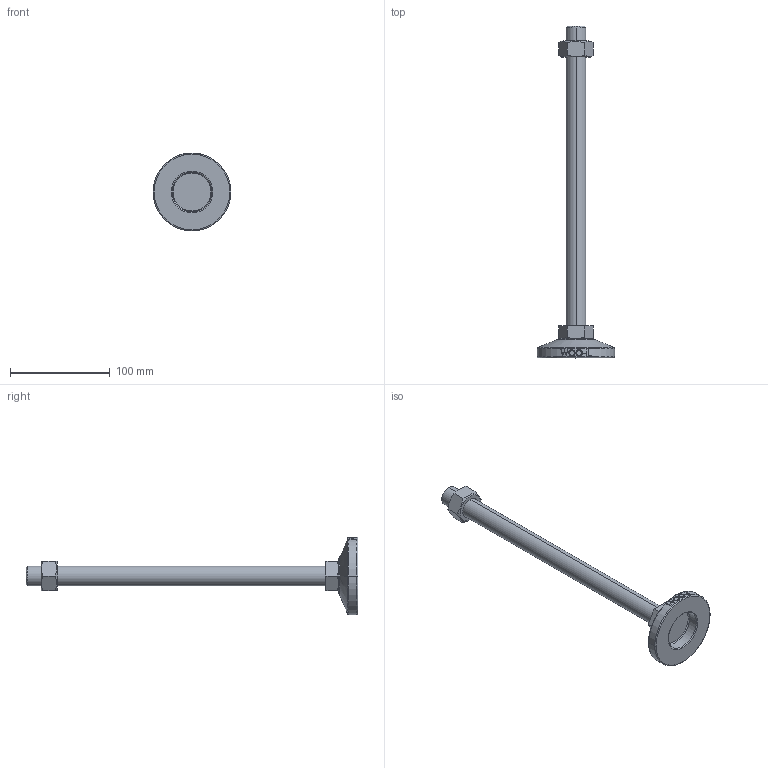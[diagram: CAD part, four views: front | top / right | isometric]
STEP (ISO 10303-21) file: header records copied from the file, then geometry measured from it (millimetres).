
FILE_DESCRIPTION (( 'STEP AP214' ), '1' );
FILE_NAME ('MFT78-M20-300.step', '2021-03-29T04:44:56', ( '' ), ( '' ), 'SwSTEP 2.0', 'SolidWorks 2019', '' );
FILE_SCHEMA (( 'AUTOMOTIVE_DESIGN' ));
Length unit declared in the file: millimetre
Products named in the file (2): MFT78-M20-300
Bounding box: 78 x 332 x 78 mm (x, y, z)
Volume: 168224.3 mm3; surface area: 38703 mm2
Topology: 3 solids, 3 shells, 106 faces, 243 edges, 154 vertices
Faces by surface type: plane 48, cylinder 18, bspline 16, cone 14, torus 10
Entity records: 4518 total; most frequent: CARTESIAN_POINT 2175, ORIENTED_EDGE 486, DIRECTION 439, EDGE_CURVE 243, AXIS2_PLACEMENT_3D 170, VERTEX_POINT 154, EDGE_LOOP 119, FACE_OUTER_BOUND 106
